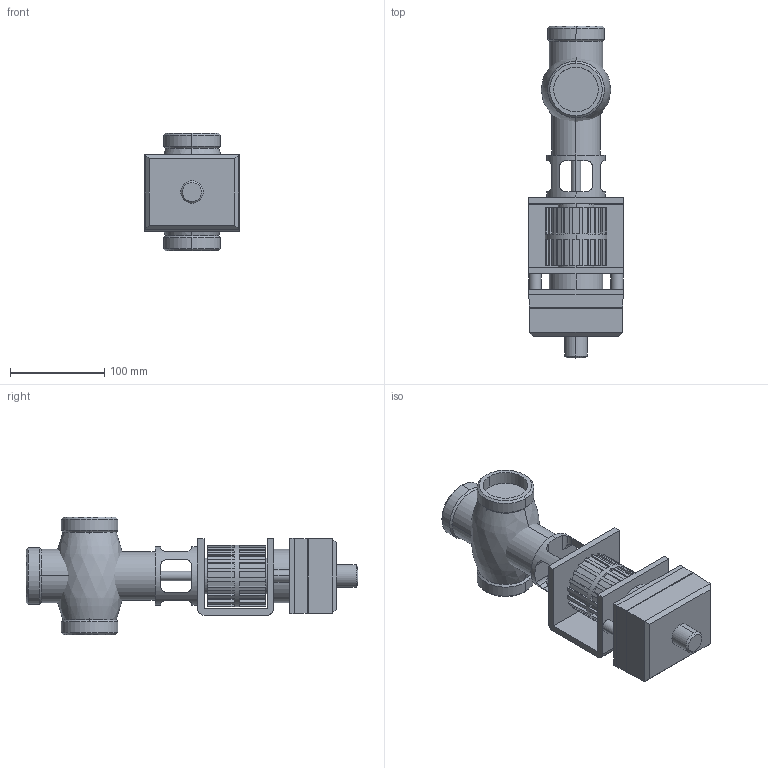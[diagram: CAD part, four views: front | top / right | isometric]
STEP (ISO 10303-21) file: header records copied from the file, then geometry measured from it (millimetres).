
FILE_DESCRIPTION((''),'2;1');
FILE_NAME('000273.stp','2006-10-04T15:56:08',(''),(''),'Mechanical Desktop 2006','Mechanical Desktop 2006',', , ');
FILE_SCHEMA(('AUTOMOTIVE_DESIGN { 1 2 10303 214 0 1 1 1 }'));
Length unit declared in the file: millimetre
Products named in the file (1): Product
Bounding box: 100 x 352.5 x 125 mm (x, y, z)
Volume: 1690325.4 mm3; surface area: 261357.7 mm2
Topology: 26 solids, 26 shells, 490 faces, 1277 edges, 836 vertices
Faces by surface type: plane 228, cylinder 144, bspline 110, cone 8
Entity records: 15637 total; most frequent: CARTESIAN_POINT 3580, ORIENTED_EDGE 2554, DIRECTION 2387, EDGE_CURVE 1277, VECTOR 865, LINE 865, VERTEX_POINT 836, AXIS2_PLACEMENT_3D 761
